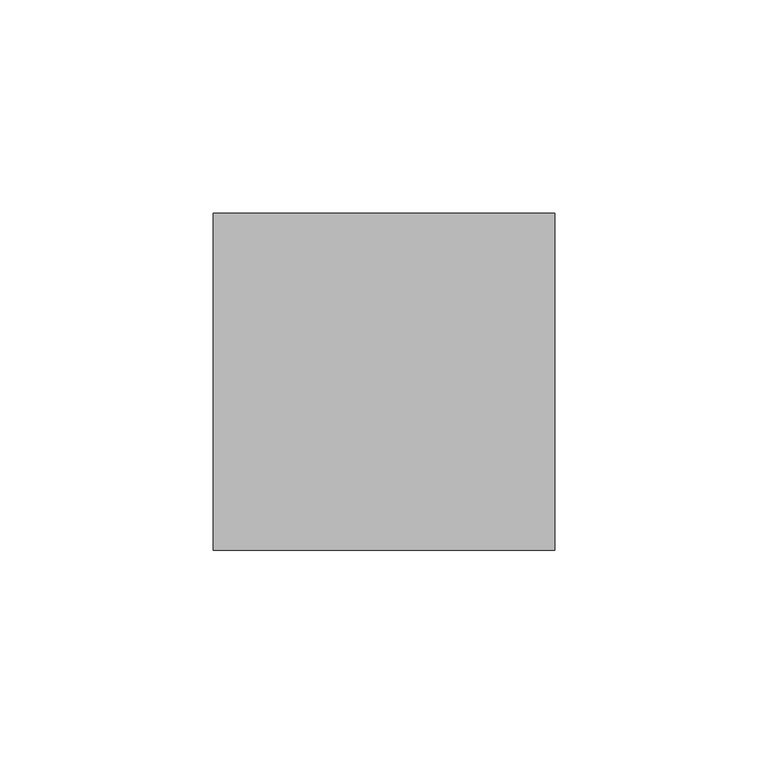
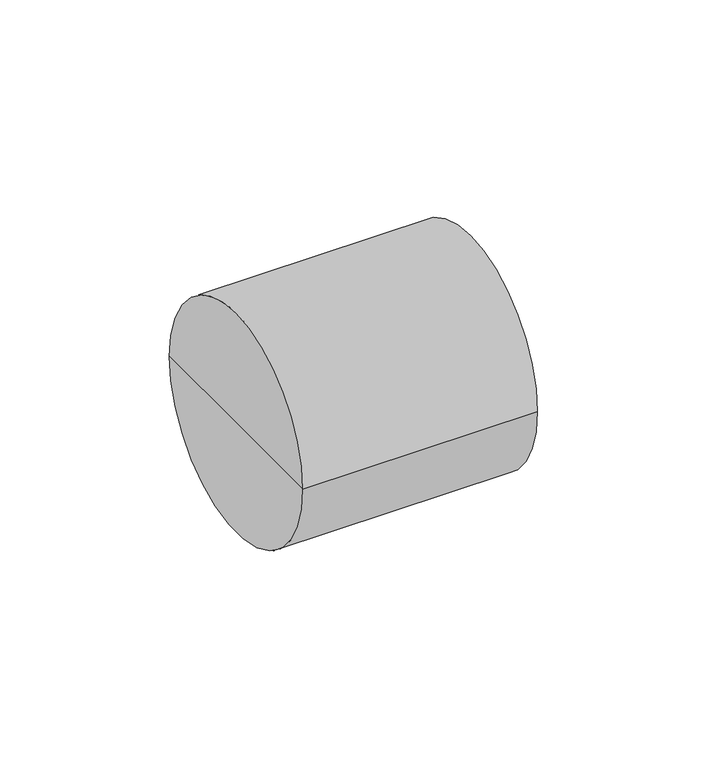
"""IFC4 building model written with IfcOpenShell, lengths in millimetres: cable carrier fitting geometry, Муфта соединительная для двустенной трубы : CTA12D-M075-K02."""

from ifc_helpers import new_model, si_unit, frame, origin, place, context, project, spatial, circle_curve, source, transform, mapped, element, save
from ifc_brep_helpers import plane_surface, cylinder_surface, advanced_brep


def cable_carrier_fitting_abdd7e5e(model_context):
    return source(origin(), model_context, "Body", "AdvancedBrep", [
        advanced_brep(
        [(-40.0, -39.5, 0.0), (-40.0, 39.5, 0.0), (40.0, 39.5, 0.0), (40.0, -39.5, 0.0), (-40.0, 0.0, 0.0), (40.0, 0.0, 0.0)],
        [
            (0, 1, circle_curve(frame((-40.0, 0.0, 0.0), z_axis=(1.0, 0.0, 0.0), x_axis=(0.0, 1.0, 0.0)), 39.5)),
            (1, 2),
            (2, 3, circle_curve(frame((40.0, 0.0, 0.0), z_axis=(-1.0, 0.0, 0.0), x_axis=(0.0, 1.0, 0.0)), 39.5)),
            (3, 0),
            (1, 0, circle_curve(frame((-40.0, 0.0, 0.0), z_axis=(1.0, 0.0, 0.0), x_axis=(0.0, 1.0, 0.0)), 39.5)),
            (3, 2, circle_curve(frame((40.0, 0.0, 0.0), z_axis=(-1.0, 0.0, 0.0), x_axis=(0.0, 1.0, 0.0)), 39.5)),
            (4, 1),
            (0, 4),
            (2, 5),
            (5, 3),
        ],
        [
            cylinder_surface(frame((1965.0, 0.0, 0.0), z_axis=(-1.0, 0.0, 0.0), x_axis=(0.0, 1.0, 0.0)), 39.5),
            plane_surface(frame((-40.0, 0.0, 0.0), z_axis=(-1.0, 0.0, 0.0), x_axis=(0.0, 1.0, 0.0))),
            plane_surface(frame((40.0, 0.0, 0.0), z_axis=(1.0, 0.0, 0.0), x_axis=(0.0, 1.0, 0.0))),
        ],
        [
            (0, [[1, 2, 3, 4]]),
            (0, [[5, -4, 6, -2]]),
            (1, [[7, -1, 8]]),
            (1, [[-8, -5, -7]]),
            (2, [[-3, 9, 10]]),
            (2, [[-6, -10, -9]]),
        ],
    ),
    ])


if __name__ == "__main__":
    model = new_model("IFC4")
    model_context = context("Model", 3, world=origin())
    ifc_project = project(units=[si_unit("LENGTHUNIT", "METRE", prefix="MILLI")], contexts=[model_context])
    site = spatial("IfcSite", under=ifc_project)
    building = spatial("IfcBuilding", under=site)
    placement = place(None, origin())
    cable_carrier_fitting_shape = cable_carrier_fitting_abdd7e5e(model_context)
    element("IfcCableCarrierFitting", 1, ObjectType="Муфта соединительная для двустенной трубы : CTA12D-M075-K02", at=placement, inside=building, context=model_context, shape_type="MappedRepresentation", body=[
        mapped(cable_carrier_fitting_shape, transform((0.0, 0.0, 0.0), x_axis=(1.0, 0.0, 0.0), y_axis=(0.0, 1.0, 0.0), z_axis=(0.0, 0.0, 1.0))),
    ])
    save(model, "model.ifc")
